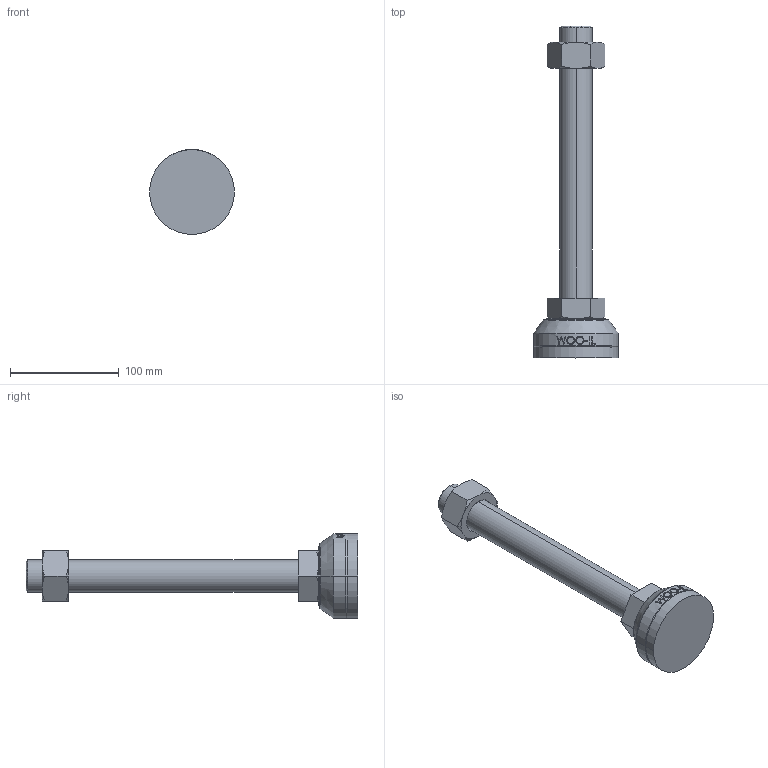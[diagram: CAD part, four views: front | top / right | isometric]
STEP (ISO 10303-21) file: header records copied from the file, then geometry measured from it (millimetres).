
FILE_DESCRIPTION (( 'STEP AP214' ), '1' );
FILE_NAME ('MFR78-M30-250.step', '2021-01-13T05:41:38', ( '' ), ( '' ), 'SwSTEP 2.0', 'SolidWorks 2019', '' );
FILE_SCHEMA (( 'AUTOMOTIVE_DESIGN' ));
Length unit declared in the file: millimetre
Products named in the file (2): MFR78-M30-250
Bounding box: 78 x 305 x 78 mm (x, y, z)
Volume: 394784.8 mm3; surface area: 64246.4 mm2
Topology: 4 solids, 4 shells, 118 faces, 283 edges, 183 vertices
Faces by surface type: plane 49, cone 29, cylinder 18, bspline 16, torus 6
Entity records: 4990 total; most frequent: CARTESIAN_POINT 2312, ORIENTED_EDGE 566, DIRECTION 492, EDGE_CURVE 283, AXIS2_PLACEMENT_3D 189, VERTEX_POINT 183, EDGE_LOOP 130, ADVANCED_FACE 118
